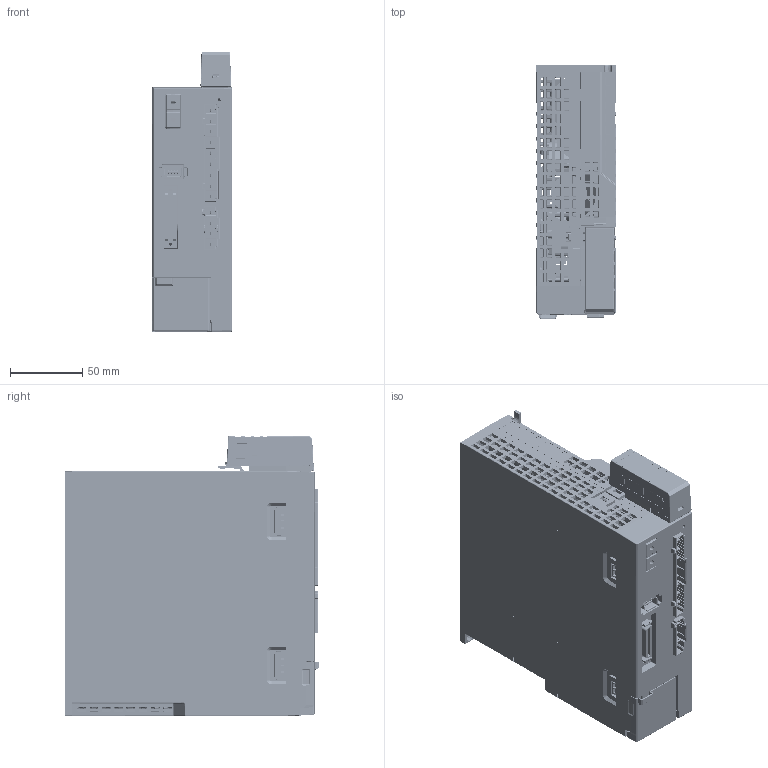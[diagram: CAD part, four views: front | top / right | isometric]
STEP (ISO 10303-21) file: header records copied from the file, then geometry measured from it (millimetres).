
FILE_DESCRIPTION((''),'2;1');
FILE_NAME('000','2024-09-04T14:10:22',('RD0060'),(''),'CREO PARAMETRIC BY PTC INC, 2016510','CREO PARAMETRIC BY PTC INC, 2016510','');
FILE_SCHEMA(('CONFIG_CONTROL_DESIGN'));
Products named in the file (1): 000
Bounding box: 55 x 175.99 x 194.27 mm (x, y, z)
Surface area: 418830.4 mm2 (no closed solid volume)
Topology: 0 solids, 291 shells, 9658 faces, 32629 edges, 22498 vertices
Faces by surface type: plane 5239, cylinder 2969, bspline 972, torus 180, cone 173, sphere 97, extrusion 26, revolution 2
Entity records: 389790 total; most frequent: CARTESIAN_POINT 124566, ORIENTED_EDGE 55582, DIRECTION 47719, EDGE_CURVE 32506, VERTEX_POINT 22499, VECTOR 21559, LINE 21533, AXIS2_PLACEMENT_3D 13079
